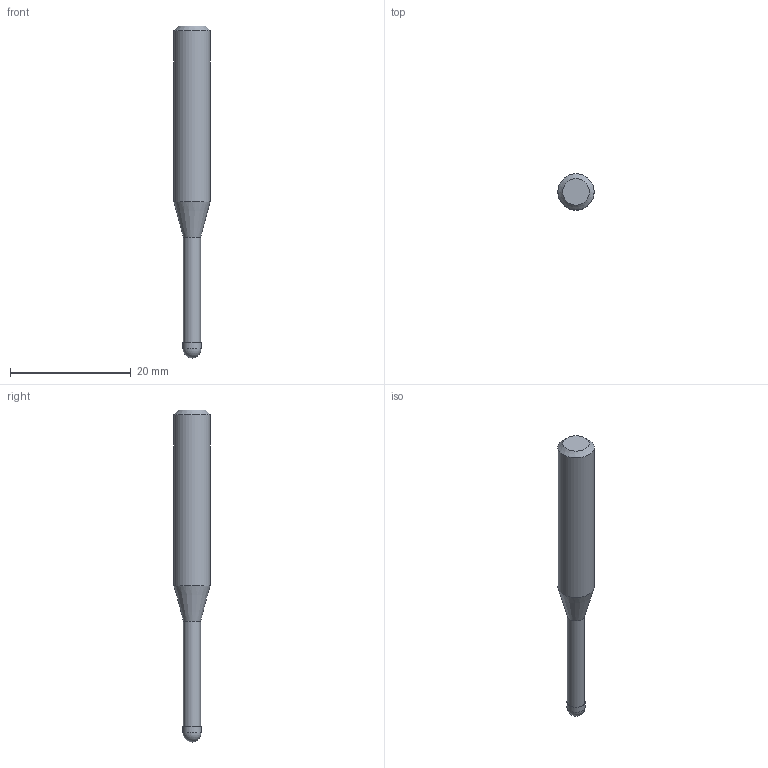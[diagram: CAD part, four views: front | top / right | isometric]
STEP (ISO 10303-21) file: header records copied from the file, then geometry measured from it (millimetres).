
FILE_DESCRIPTION((''),'2;1');
FILE_NAME('C:\Users\nsx150\AppData\Local\Temp\Mastercam 2021\QT8KEW0Y7J\TEMP.step','2021-04-23T11:21:52',(''),(''),'STEP Write','Mastercam 2021 ... CNC Software, Inc.','');
FILE_SCHEMA(('AUTOMOTIVE_DESIGN'));
Length unit declared in the file: millimetre
Products named in the file (1): None
Bounding box: 6 x 6 x 55 mm (x, y, z)
Volume: 1037.9 mm3; surface area: 845.8 mm2
Topology: 2 solids, 2 shells, 9 faces, 14 edges, 8 vertices
Faces by surface type: plane 3, cylinder 3, cone 2, sphere 1
Full cylindrical faces by diameter (mm): 2.85 x1, 3 x1, 6 x1
Entity records: 211 total; most frequent: DIRECTION 36, CARTESIAN_POINT 25, AXIS2_PLACEMENT_3D 18, ORIENTED_EDGE 14, EDGE_LOOP 14, STYLED_ITEM 12, ADVANCED_FACE 9, FACE_BOUND 8
